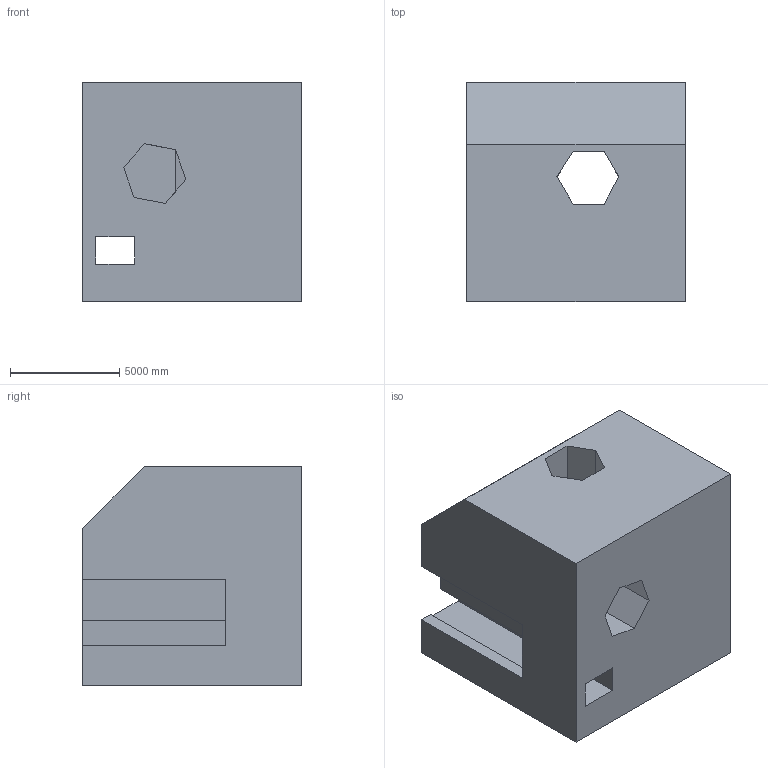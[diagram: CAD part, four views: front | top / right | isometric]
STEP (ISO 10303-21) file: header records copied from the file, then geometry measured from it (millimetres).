
FILE_DESCRIPTION (( 'STEP AP203' ), '1' );
FILE_NAME ('422.STEP', '2022-07-29T11:13:02', ( 'user' ), ( '' ), 'SwSTEP 2.0', 'SolidWorks 2021', '' );
FILE_SCHEMA (( 'CONFIG_CONTROL_DESIGN' ));
Length unit declared in the file: centimetre
Products named in the file (1): 422
Bounding box: 10000 x 10000 x 10000 mm (x, y, z)
Volume: 837060069519.6 mm3; surface area: 744664448.8 mm2
Topology: 1 solids, 1 shells, 28 faces, 81 edges, 54 vertices
Faces by surface type: plane 28
Entity records: 994 total; most frequent: CARTESIAN_POINT 164, ORIENTED_EDGE 162, DIRECTION 139, VECTOR 81, EDGE_CURVE 81, LINE 81, VERTEX_POINT 54, EDGE_LOOP 33
